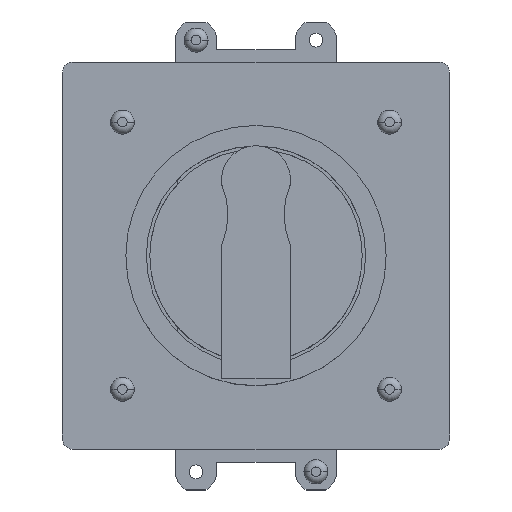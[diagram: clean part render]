
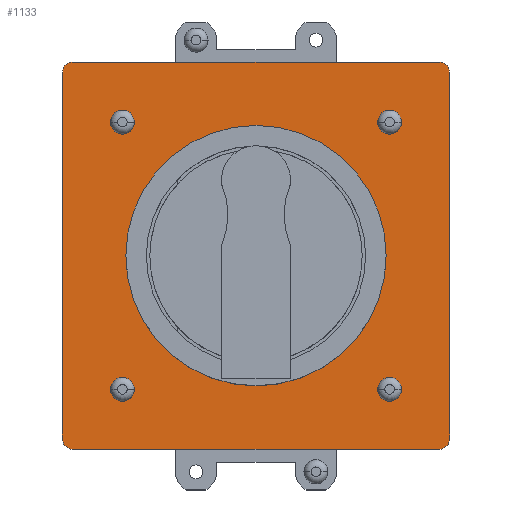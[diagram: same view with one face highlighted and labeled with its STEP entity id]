
A CAD part, top view. The second image highlights one B-rep face of the part: STEP entity #1133.
In plain terms, the highlighted planar face has unit normal (0, 0, 1).
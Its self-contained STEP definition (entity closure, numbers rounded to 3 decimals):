
#995 = EDGE_CURVE( '', #2439, #2253, #2814, .T. );
#1061 = VERTEX_POINT( '', #2889 );
#1069 = EDGE_CURVE( '', #1313, #2269, #2897, .T. );
#1133 = ADVANCED_FACE( '', ( #2965, #2966, #2967, #2968, #2969, #2970 ), #2971, .T. );
#1157 = EDGE_CURVE( '', #1965, #2285, #2996, .T. );
#1253 = VERTEX_POINT( '', #3098 );
#1285 = EDGE_CURVE( '', #1409, #1579, #3130, .T. );
#1299 = EDGE_CURVE( '', #1877, #1881, #3146, .T. );
#1313 = VERTEX_POINT( '', #3163 );
#1409 = VERTEX_POINT( '', #3276 );
#1457 = EDGE_CURVE( '', #2705, #1409, #3330, .T. );
#1579 = VERTEX_POINT( '', #3463 );
#1623 = EDGE_CURVE( '', #2703, #1253, #3516, .T. );
#1635 = EDGE_CURVE( '', #2269, #1313, #3530, .T. );
#1701 = VERTEX_POINT( '', #3600 );
#1783 = EDGE_CURVE( '', #1881, #1877, #3691, .T. );
#1853 = EDGE_CURVE( '', #2253, #1701, #3769, .T. );
#1877 = VERTEX_POINT( '', #3794 );
#1881 = VERTEX_POINT( '', #3798 );
#1953 = EDGE_CURVE( '', #2163, #2409, #3880, .T. );
#1965 = VERTEX_POINT( '', #3893 );
#2047 = EDGE_CURVE( '', #1579, #2439, #3982, .T. );
#2051 = VERTEX_POINT( '', #3986 );
#2079 = EDGE_CURVE( '', #2409, #2163, #4016, .T. );
#2163 = VERTEX_POINT( '', #4108 );
#2253 = VERTEX_POINT( '', #4213 );
#2269 = VERTEX_POINT( '', #4231 );
#2285 = VERTEX_POINT( '', #4248 );
#2409 = VERTEX_POINT( '', #4387 );
#2439 = VERTEX_POINT( '', #4421 );
#2477 = EDGE_CURVE( '', #1701, #1965, #4465, .T. );
#2525 = EDGE_CURVE( '', #2285, #2705, #4516, .T. );
#2607 = EDGE_CURVE( '', #2051, #1061, #4605, .T. );
#2637 = EDGE_CURVE( '', #1253, #2703, #4637, .T. );
#2671 = EDGE_CURVE( '', #1061, #2051, #4675, .T. );
#2703 = VERTEX_POINT( '', #4710 );
#2705 = VERTEX_POINT( '', #4712 );
#2814 = CIRCLE( '', #4847, 3. );
#2889 = CARTESIAN_POINT( '', ( -41., -39., 19.1 ) );
#2897 = CIRCLE( '', #4964, 38. );
#2965 = FACE_BOUND( '', #5051, .T. );
#2966 = FACE_BOUND( '', #5052, .T. );
#2967 = FACE_BOUND( '', #5053, .T. );
#2968 = FACE_BOUND( '', #5054, .T. );
#2969 = FACE_BOUND( '', #5055, .T. );
#2970 = FACE_OUTER_BOUND( '', #5056, .T. );
#2971 = PLANE( '', #5057 );
#2996 = LINE( '', #5088, #5089 );
#3098 = CARTESIAN_POINT( '', ( 37., -39., 19.1 ) );
#3130 = CIRCLE( '', #5275, 3. );
#3146 = CIRCLE( '', #5293, 2. );
#3163 = CARTESIAN_POINT( '', ( -38., 0., 19.1 ) );
#3276 = CARTESIAN_POINT( '', ( 53.5, 56.5, 19.1 ) );
#3330 = LINE( '', #5528, #5529 );
#3463 = CARTESIAN_POINT( '', ( 56.5, 53.5, 19.1 ) );
#3516 = CIRCLE( '', #5769, 2. );
#3530 = CIRCLE( '', #5786, 38. );
#3600 = CARTESIAN_POINT( '', ( -53.5, -56.5, 19.1 ) );
#3691 = CIRCLE( '', #6008, 2. );
#3769 = LINE( '', #6113, #6114 );
#3794 = CARTESIAN_POINT( '', ( 41., 39., 19.1 ) );
#3798 = CARTESIAN_POINT( '', ( 37., 39., 19.1 ) );
#3880 = CIRCLE( '', #6252, 2. );
#3893 = CARTESIAN_POINT( '', ( -56.5, -53.5, 19.1 ) );
#3982 = LINE( '', #6387, #6388 );
#3986 = CARTESIAN_POINT( '', ( -37., -39., 19.1 ) );
#4016 = CIRCLE( '', #6435, 2. );
#4108 = CARTESIAN_POINT( '', ( -37., 39., 19.1 ) );
#4213 = CARTESIAN_POINT( '', ( 53.5, -56.5, 19.1 ) );
#4231 = CARTESIAN_POINT( '', ( 38., 0., 19.1 ) );
#4248 = CARTESIAN_POINT( '', ( -56.5, 53.5, 19.1 ) );
#4387 = CARTESIAN_POINT( '', ( -41., 39., 19.1 ) );
#4421 = CARTESIAN_POINT( '', ( 56.5, -53.5, 19.1 ) );
#4465 = CIRCLE( '', #7023, 3. );
#4516 = CIRCLE( '', #7093, 3. );
#4605 = CIRCLE( '', #7213, 2. );
#4637 = CIRCLE( '', #7256, 2. );
#4675 = CIRCLE( '', #7307, 2. );
#4710 = CARTESIAN_POINT( '', ( 41., -39., 19.1 ) );
#4712 = CARTESIAN_POINT( '', ( -53.5, 56.5, 19.1 ) );
#4847 = AXIS2_PLACEMENT_3D( '', #7465, #7466, #7467 );
#4964 = AXIS2_PLACEMENT_3D( '', #7566, #7567, #7568 );
#5051 = EDGE_LOOP( '', ( #7625, #7626 ) );
#5052 = EDGE_LOOP( '', ( #7627, #7628 ) );
#5053 = EDGE_LOOP( '', ( #7629, #7630 ) );
#5054 = EDGE_LOOP( '', ( #7631, #7632 ) );
#5055 = EDGE_LOOP( '', ( #7633, #7634 ) );
#5056 = EDGE_LOOP( '', ( #7635, #7636, #7637, #7638, #7639, #7640, #7641, #7642 ) );
#5057 = AXIS2_PLACEMENT_3D( '', #7643, #7644, #7645 );
#5088 = CARTESIAN_POINT( '', ( -56.5, 53.5, 19.1 ) );
#5089 = VECTOR( '', #7658, 1. );
#5275 = AXIS2_PLACEMENT_3D( '', #7783, #7784, #7785 );
#5293 = AXIS2_PLACEMENT_3D( '', #7806, #7807, #7808 );
#5528 = CARTESIAN_POINT( '', ( 53.5, 56.5, 19.1 ) );
#5529 = VECTOR( '', #8068, 1. );
#5769 = AXIS2_PLACEMENT_3D( '', #8286, #8287, #8288 );
#5786 = AXIS2_PLACEMENT_3D( '', #8306, #8307, #8308 );
#6008 = AXIS2_PLACEMENT_3D( '', #8476, #8477, #8478 );
#6113 = CARTESIAN_POINT( '', ( -53.5, -56.5, 19.1 ) );
#6114 = VECTOR( '', #8578, 1. );
#6252 = AXIS2_PLACEMENT_3D( '', #8710, #8711, #8712 );
#6387 = CARTESIAN_POINT( '', ( 56.5, -53.5, 19.1 ) );
#6388 = VECTOR( '', #8820, 1. );
#6435 = AXIS2_PLACEMENT_3D( '', #8857, #8858, #8859 );
#7023 = AXIS2_PLACEMENT_3D( '', #9415, #9416, #9417 );
#7093 = AXIS2_PLACEMENT_3D( '', #9470, #9471, #9472 );
#7213 = AXIS2_PLACEMENT_3D( '', #9557, #9558, #9559 );
#7256 = AXIS2_PLACEMENT_3D( '', #9594, #9595, #9596 );
#7307 = AXIS2_PLACEMENT_3D( '', #9651, #9652, #9653 );
#7465 = CARTESIAN_POINT( '', ( 53.5, -53.5, 19.1 ) );
#7466 = DIRECTION( '', ( 0., 0., -1. ) );
#7467 = DIRECTION( '', ( 0., -1., 0. ) );
#7566 = CARTESIAN_POINT( '', ( 0., 0., 19.1 ) );
#7567 = DIRECTION( '', ( 0., 0., -1. ) );
#7568 = DIRECTION( '', ( 1., 0., 0. ) );
#7625 = ORIENTED_EDGE( '', *, *, #1623, .T. );
#7626 = ORIENTED_EDGE( '', *, *, #2637, .T. );
#7627 = ORIENTED_EDGE( '', *, *, #2607, .T. );
#7628 = ORIENTED_EDGE( '', *, *, #2671, .T. );
#7629 = ORIENTED_EDGE( '', *, *, #1299, .T. );
#7630 = ORIENTED_EDGE( '', *, *, #1783, .T. );
#7631 = ORIENTED_EDGE( '', *, *, #1953, .T. );
#7632 = ORIENTED_EDGE( '', *, *, #2079, .T. );
#7633 = ORIENTED_EDGE( '', *, *, #1635, .T. );
#7634 = ORIENTED_EDGE( '', *, *, #1069, .T. );
#7635 = ORIENTED_EDGE( '', *, *, #1157, .F. );
#7636 = ORIENTED_EDGE( '', *, *, #2477, .F. );
#7637 = ORIENTED_EDGE( '', *, *, #1853, .F. );
#7638 = ORIENTED_EDGE( '', *, *, #995, .F. );
#7639 = ORIENTED_EDGE( '', *, *, #2047, .F. );
#7640 = ORIENTED_EDGE( '', *, *, #1285, .F. );
#7641 = ORIENTED_EDGE( '', *, *, #1457, .F. );
#7642 = ORIENTED_EDGE( '', *, *, #2525, .F. );
#7643 = CARTESIAN_POINT( '', ( 0., 0., 19.1 ) );
#7644 = DIRECTION( '', ( 0., 0., 1. ) );
#7645 = DIRECTION( '', ( 1., 0., 0. ) );
#7658 = DIRECTION( '', ( 0., 1., 0. ) );
#7783 = CARTESIAN_POINT( '', ( 53.5, 53.5, 19.1 ) );
#7784 = DIRECTION( '', ( 0., 0., -1. ) );
#7785 = DIRECTION( '', ( 1., 0., 0. ) );
#7806 = CARTESIAN_POINT( '', ( 39., 39., 19.1 ) );
#7807 = DIRECTION( '', ( 0., 0., -1. ) );
#7808 = DIRECTION( '', ( 1., 0., 0. ) );
#8068 = DIRECTION( '', ( 1., 0., 0. ) );
#8286 = CARTESIAN_POINT( '', ( 39., -39., 19.1 ) );
#8287 = DIRECTION( '', ( 0., 0., -1. ) );
#8288 = DIRECTION( '', ( 1., 0., 0. ) );
#8306 = CARTESIAN_POINT( '', ( 0., 0., 19.1 ) );
#8307 = DIRECTION( '', ( 0., 0., -1. ) );
#8308 = DIRECTION( '', ( 1., 0., 0. ) );
#8476 = CARTESIAN_POINT( '', ( 39., 39., 19.1 ) );
#8477 = DIRECTION( '', ( 0., 0., -1. ) );
#8478 = DIRECTION( '', ( 1., 0., 0. ) );
#8578 = DIRECTION( '', ( -1., 0., 0. ) );
#8710 = CARTESIAN_POINT( '', ( -39., 39., 19.1 ) );
#8711 = DIRECTION( '', ( 0., 0., -1. ) );
#8712 = DIRECTION( '', ( 1., 0., 0. ) );
#8820 = DIRECTION( '', ( 0., -1., 0. ) );
#8857 = CARTESIAN_POINT( '', ( -39., 39., 19.1 ) );
#8858 = DIRECTION( '', ( 0., 0., -1. ) );
#8859 = DIRECTION( '', ( 1., 0., 0. ) );
#9415 = CARTESIAN_POINT( '', ( -53.5, -53.5, 19.1 ) );
#9416 = DIRECTION( '', ( 0., 0., -1. ) );
#9417 = DIRECTION( '', ( -1., 0., 0. ) );
#9470 = CARTESIAN_POINT( '', ( -53.5, 53.5, 19.1 ) );
#9471 = DIRECTION( '', ( 0., 0., -1. ) );
#9472 = DIRECTION( '', ( 0., 1., 0. ) );
#9557 = CARTESIAN_POINT( '', ( -39., -39., 19.1 ) );
#9558 = DIRECTION( '', ( 0., 0., -1. ) );
#9559 = DIRECTION( '', ( 1., 0., 0. ) );
#9594 = CARTESIAN_POINT( '', ( 39., -39., 19.1 ) );
#9595 = DIRECTION( '', ( 0., 0., -1. ) );
#9596 = DIRECTION( '', ( 1., 0., 0. ) );
#9651 = CARTESIAN_POINT( '', ( -39., -39., 19.1 ) );
#9652 = DIRECTION( '', ( 0., 0., -1. ) );
#9653 = DIRECTION( '', ( 1., 0., 0. ) );
